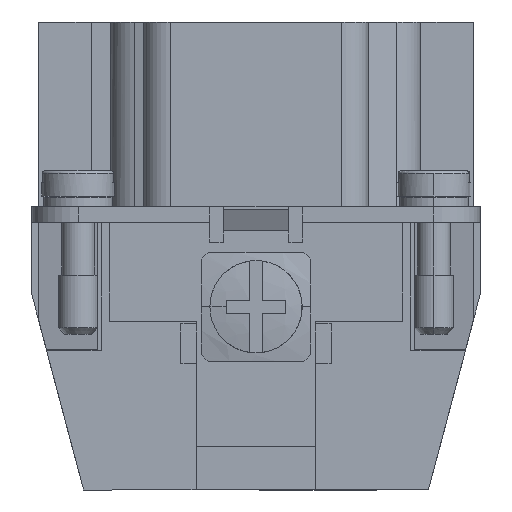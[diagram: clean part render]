
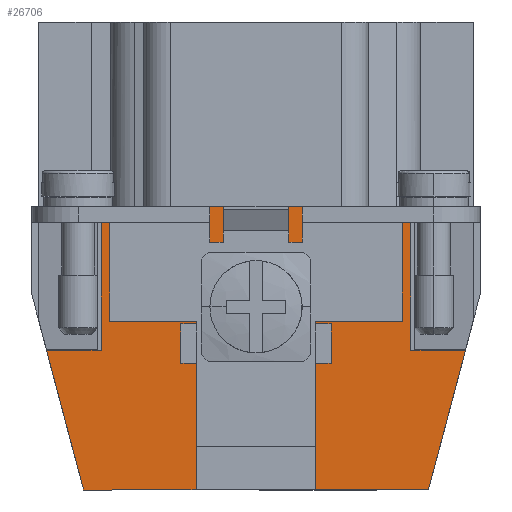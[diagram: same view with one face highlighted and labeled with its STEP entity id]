
A CAD part, left-side view. The second image highlights one B-rep face of the part: STEP entity #26706.
In plain terms, the highlighted planar face has unit normal (-1, 0, 0).
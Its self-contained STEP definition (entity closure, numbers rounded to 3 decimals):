
#7475 = FACE_OUTER_BOUND ( 'NONE', #26799, .T. ) ;
#7507 = DIRECTION ( 'NONE',  ( 0., 0., 1. ) ) ;
#7508 = DIRECTION ( 'NONE',  ( -1., 0., 0. ) ) ;
#7510 = CARTESIAN_POINT ( 'NONE',  ( -45., 0., 19.2 ) ) ;
#7511 = AXIS2_PLACEMENT_3D ( 'NONE', #7510, #7508, #7507 ) ;
#7515 = PLANE ( 'NONE',  #7511 ) ;
#7835 = DIRECTION ( 'NONE',  ( 0., 1., 0. ) ) ;
#7836 = VECTOR ( 'NONE', #7835, 1000. ) ;
#7838 = CARTESIAN_POINT ( 'NONE',  ( -45., 0.013, 19.2 ) ) ;
#7839 = LINE ( 'NONE', #7838, #7836 ) ;
#15915 = DIRECTION ( 'NONE',  ( 0., -1., 0. ) ) ;
#15916 = VECTOR ( 'NONE', #15915, 1000. ) ;
#15919 = CARTESIAN_POINT ( 'NONE',  ( -45., 0., -2.3 ) ) ;
#15920 = LINE ( 'NONE', #15919, #15916 ) ;
#15923 = DIRECTION ( 'NONE',  ( 0., -1., 0. ) ) ;
#15925 = VECTOR ( 'NONE', #15923, 1000. ) ;
#15927 = CARTESIAN_POINT ( 'NONE',  ( -45., 0., -2.3 ) ) ;
#15928 = LINE ( 'NONE', #15927, #15925 ) ;
#21744 = VERTEX_POINT ( 'NONE', #104643 ) ;
#21848 = EDGE_CURVE ( 'NONE', #21744, #53924, #105381, .T. ) ;
#26337 = ORIENTED_EDGE ( 'NONE', *, *, #26954, .T. ) ;
#26427 = ORIENTED_EDGE ( 'NONE', *, *, #53039, .T. ) ;
#26431 = ORIENTED_EDGE ( 'NONE', *, *, #54030, .T. ) ;
#26435 = ORIENTED_EDGE ( 'NONE', *, *, #52952, .T. ) ;
#26678 = ORIENTED_EDGE ( 'NONE', *, *, #54117, .T. ) ;
#26706 = ADVANCED_FACE ( 'NONE', ( #7475 ), #7515, .T. ) ;
#26793 = ORIENTED_EDGE ( 'NONE', *, *, #104180, .T. ) ;
#26799 = EDGE_LOOP ( 'NONE', ( #26678, #26793, #26435, #26427, #26431, #26337, #27055, #26986, #27201, #27111, #27113, #27110, #27209 ) ) ;
#26954 = EDGE_CURVE ( 'NONE', #54027, #21744, #7839, .T. ) ;
#26986 = ORIENTED_EDGE ( 'NONE', *, *, #54025, .T. ) ;
#27055 = ORIENTED_EDGE ( 'NONE', *, *, #21848, .T. ) ;
#27110 = ORIENTED_EDGE ( 'NONE', *, *, #54188, .T. ) ;
#27111 = ORIENTED_EDGE ( 'NONE', *, *, #54086, .T. ) ;
#27113 = ORIENTED_EDGE ( 'NONE', *, *, #104171, .T. ) ;
#27201 = ORIENTED_EDGE ( 'NONE', *, *, #53981, .T. ) ;
#27209 = ORIENTED_EDGE ( 'NONE', *, *, #54282, .T. ) ;
#52940 = VERTEX_POINT ( 'NONE', #144004 ) ;
#52952 = EDGE_CURVE ( 'NONE', #52958, #52940, #144000, .T. ) ;
#52958 = VERTEX_POINT ( 'NONE', #143995 ) ;
#53029 = VERTEX_POINT ( 'NONE', #144172 ) ;
#53039 = EDGE_CURVE ( 'NONE', #52940, #53029, #144169, .T. ) ;
#53924 = VERTEX_POINT ( 'NONE', #145467 ) ;
#53927 = VERTEX_POINT ( 'NONE', #145465 ) ;
#53976 = VERTEX_POINT ( 'NONE', #145528 ) ;
#53981 = EDGE_CURVE ( 'NONE', #53927, #53976, #145526, .T. ) ;
#54025 = EDGE_CURVE ( 'NONE', #53924, #53927, #145599, .T. ) ;
#54027 = VERTEX_POINT ( 'NONE', #145595 ) ;
#54030 = EDGE_CURVE ( 'NONE', #53029, #54027, #145593, .T. ) ;
#54080 = VERTEX_POINT ( 'NONE', #145674 ) ;
#54086 = EDGE_CURVE ( 'NONE', #53976, #54080, #145671, .T. ) ;
#54107 = VERTEX_POINT ( 'NONE', #145699 ) ;
#54117 = EDGE_CURVE ( 'NONE', #54183, #54107, #145784, .T. ) ;
#54183 = VERTEX_POINT ( 'NONE', #145854 ) ;
#54188 = EDGE_CURVE ( 'NONE', #54190, #54377, #145852, .T. ) ;
#54190 = VERTEX_POINT ( 'NONE', #145848 ) ;
#54282 = EDGE_CURVE ( 'NONE', #54377, #54183, #146033, .T. ) ;
#54377 = VERTEX_POINT ( 'NONE', #146177 ) ;
#104171 = EDGE_CURVE ( 'NONE', #54080, #54190, #15928, .T. ) ;
#104180 = EDGE_CURVE ( 'NONE', #54107, #52958, #15920, .T. ) ;
#104643 = CARTESIAN_POINT ( 'NONE',  ( -45., 10.929, 19.2 ) ) ;
#105373 = DIRECTION ( 'NONE',  ( 0., 1., 0. ) ) ;
#105374 = VECTOR ( 'NONE', #105373, 1000. ) ;
#105379 = CARTESIAN_POINT ( 'NONE',  ( -45., 0., 19.2 ) ) ;
#105381 = LINE ( 'NONE', #105379, #105374 ) ;
#143995 = CARTESIAN_POINT ( 'NONE',  ( -45., -13.079, -2.3 ) ) ;
#143996 = DIRECTION ( 'NONE',  ( 0., -0.256, 0.967 ) ) ;
#143997 = VECTOR ( 'NONE', #143996, 1000. ) ;
#143999 = CARTESIAN_POINT ( 'NONE',  ( -45., -13.079, -2.3 ) ) ;
#144000 = LINE ( 'NONE', #143999, #143997 ) ;
#144004 = CARTESIAN_POINT ( 'NONE',  ( -45., -15.887, 8.3 ) ) ;
#144165 = DIRECTION ( 'NONE',  ( 0., 1., 0. ) ) ;
#144166 = VECTOR ( 'NONE', #144165, 1000. ) ;
#144168 = CARTESIAN_POINT ( 'NONE',  ( -45., 0., 8.3 ) ) ;
#144169 = LINE ( 'NONE', #144168, #144166 ) ;
#144172 = CARTESIAN_POINT ( 'NONE',  ( -45., -11.75, 8.3 ) ) ;
#145465 = CARTESIAN_POINT ( 'NONE',  ( -45., 11.75, 8.3 ) ) ;
#145467 = CARTESIAN_POINT ( 'NONE',  ( -45., 11.75, 19.2 ) ) ;
#145523 = DIRECTION ( 'NONE',  ( 0., 1., 0. ) ) ;
#145524 = VECTOR ( 'NONE', #145523, 1000. ) ;
#145525 = CARTESIAN_POINT ( 'NONE',  ( -45., 0., 8.3 ) ) ;
#145526 = LINE ( 'NONE', #145525, #145524 ) ;
#145528 = CARTESIAN_POINT ( 'NONE',  ( -45., 15.887, 8.3 ) ) ;
#145589 = DIRECTION ( 'NONE',  ( 0., 0., 1. ) ) ;
#145590 = VECTOR ( 'NONE', #145589, 1000. ) ;
#145592 = CARTESIAN_POINT ( 'NONE',  ( -45., -11.75, 19.2 ) ) ;
#145593 = LINE ( 'NONE', #145592, #145590 ) ;
#145595 = CARTESIAN_POINT ( 'NONE',  ( -45., -11.75, 19.2 ) ) ;
#145596 = DIRECTION ( 'NONE',  ( 0., 0., -1. ) ) ;
#145597 = VECTOR ( 'NONE', #145596, 1000. ) ;
#145598 = CARTESIAN_POINT ( 'NONE',  ( -45., 11.75, 19.2 ) ) ;
#145599 = LINE ( 'NONE', #145598, #145597 ) ;
#145668 = DIRECTION ( 'NONE',  ( 0., -0.256, -0.967 ) ) ;
#145669 = VECTOR ( 'NONE', #145668, 1000. ) ;
#145670 = CARTESIAN_POINT ( 'NONE',  ( -45., 15.887, 8.3 ) ) ;
#145671 = LINE ( 'NONE', #145670, #145669 ) ;
#145674 = CARTESIAN_POINT ( 'NONE',  ( -45., 13.079, -2.3 ) ) ;
#145699 = CARTESIAN_POINT ( 'NONE',  ( -45., -4.55, -2.3 ) ) ;
#145775 = DIRECTION ( 'NONE',  ( 0., 0., -1. ) ) ;
#145776 = VECTOR ( 'NONE', #145775, 1000. ) ;
#145777 = CARTESIAN_POINT ( 'NONE',  ( -45., -4.55, 19.2 ) ) ;
#145784 = LINE ( 'NONE', #145777, #145776 ) ;
#145848 = CARTESIAN_POINT ( 'NONE',  ( -45., 4.55, -2.3 ) ) ;
#145849 = DIRECTION ( 'NONE',  ( 0., 0., 1. ) ) ;
#145850 = VECTOR ( 'NONE', #145849, 1000. ) ;
#145851 = CARTESIAN_POINT ( 'NONE',  ( -45., 4.55, 19.2 ) ) ;
#145852 = LINE ( 'NONE', #145851, #145850 ) ;
#145854 = CARTESIAN_POINT ( 'NONE',  ( -45., -4.55, 3.2 ) ) ;
#146030 = DIRECTION ( 'NONE',  ( 0., -1., 0. ) ) ;
#146031 = VECTOR ( 'NONE', #146030, 1000. ) ;
#146032 = CARTESIAN_POINT ( 'NONE',  ( -45., 0., 3.2 ) ) ;
#146033 = LINE ( 'NONE', #146032, #146031 ) ;
#146177 = CARTESIAN_POINT ( 'NONE',  ( -45., 4.55, 3.2 ) ) ;
